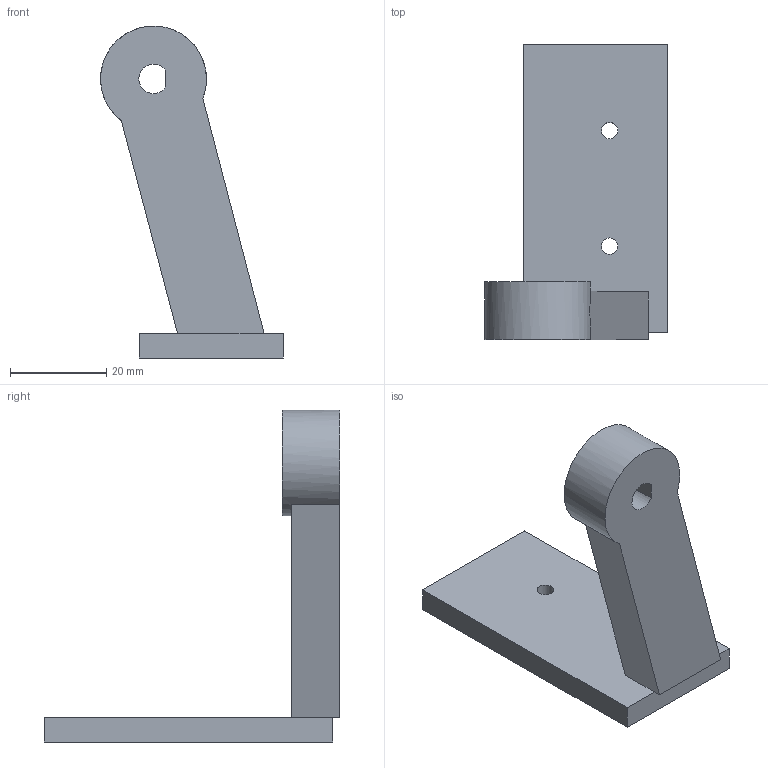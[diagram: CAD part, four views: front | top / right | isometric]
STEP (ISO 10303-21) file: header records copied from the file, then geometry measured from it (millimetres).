
FILE_DESCRIPTION(('Open CASCADE Model'),'2;1');
FILE_NAME('Open CASCADE Shape Model','2026-10-16T00:13:15',('Author'),( 'Open CASCADE'),'Open CASCADE STEP processor 7.9','Open CASCADE 7.9' ,'Unknown');
FILE_SCHEMA(('AUTOMOTIVE_DESIGN { 1 0 10303 214 1 1 1 1 }'));
Length unit declared in the file: millimetre
Products named in the file (1): Open CASCADE STEP translator 7.9 7
Bounding box: 38 x 61.5 x 69 mm (x, y, z)
Volume: 20917.1 mm3; surface area: 8630.7 mm2
Topology: 1 solids, 1 shells, 21 faces, 60 edges, 39 vertices
Faces by surface type: plane 16, cylinder 5
Full cylindrical faces by diameter (mm): 3.4 x2, 4.2 x1, 22 x1
Entity records: 1719 total; most frequent: CARTESIAN_POINT 535, DIRECTION 211, LINE 132, VECTOR 132, ORIENTED_EDGE 120, PCURVE 120, DEFINITIONAL_REPRESENTATION 120, EDGE_CURVE 60
